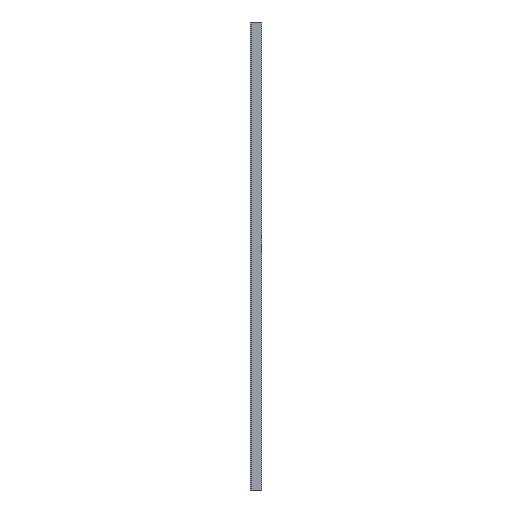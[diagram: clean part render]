
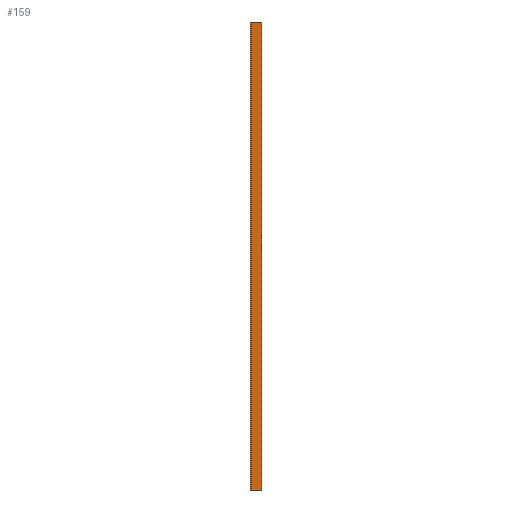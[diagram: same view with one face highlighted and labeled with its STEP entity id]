
A CAD part, left-side view. The second image highlights one B-rep face of the part: STEP entity #159.
In plain terms, the highlighted planar face has unit normal (-1, 0, 0).
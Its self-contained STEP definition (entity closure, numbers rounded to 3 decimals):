
#22 = ORIENTED_EDGE ( 'NONE', *, *, #540, .F. ) ;
#56 = FACE_OUTER_BOUND ( 'NONE', #443, .T. ) ;
#57 = ORIENTED_EDGE ( 'NONE', *, *, #177, .T. ) ;
#66 = DIRECTION ( 'NONE',  ( 0., 1., 0. ) ) ;
#76 = CARTESIAN_POINT ( 'NONE',  ( -605.5, -20., -754. ) ) ;
#100 = VECTOR ( 'NONE', #470, 1000. ) ;
#130 = CARTESIAN_POINT ( 'NONE',  ( -605.5, 0., -754. ) ) ;
#159 = ADVANCED_FACE ( 'NONE', ( #56 ), #831, .T. ) ;
#167 = VECTOR ( 'NONE', #66, 1000. ) ;
#177 = EDGE_CURVE ( 'NONE', #881, #329, #259, .T. ) ;
#244 = DIRECTION ( 'NONE',  ( 0., 1., 0. ) ) ;
#259 = LINE ( 'NONE', #684, #893 ) ;
#280 = VERTEX_POINT ( 'NONE', #878 ) ;
#306 = CARTESIAN_POINT ( 'NONE',  ( -605.5, 0., -754. ) ) ;
#317 = DIRECTION ( 'NONE',  ( -1., 0., 0. ) ) ;
#326 = VERTEX_POINT ( 'NONE', #130 ) ;
#329 = VERTEX_POINT ( 'NONE', #462 ) ;
#349 = CARTESIAN_POINT ( 'NONE',  ( -605.5, -20., 50. ) ) ;
#400 = DIRECTION ( 'NONE',  ( 0., 0., 1. ) ) ;
#443 = EDGE_LOOP ( 'NONE', ( #576, #22, #57, #762 ) ) ;
#462 = CARTESIAN_POINT ( 'NONE',  ( -605.5, -20., 50. ) ) ;
#470 = DIRECTION ( 'NONE',  ( 0., 0., 1. ) ) ;
#540 = EDGE_CURVE ( 'NONE', #881, #326, #688, .T. ) ;
#576 = ORIENTED_EDGE ( 'NONE', *, *, #664, .F. ) ;
#618 = CARTESIAN_POINT ( 'NONE',  ( -605.5, -20., -754. ) ) ;
#664 = EDGE_CURVE ( 'NONE', #326, #280, #909, .T. ) ;
#684 = CARTESIAN_POINT ( 'NONE',  ( -605.5, -20., -754. ) ) ;
#688 = LINE ( 'NONE', #76, #854 ) ;
#690 = LINE ( 'NONE', #349, #167 ) ;
#762 = ORIENTED_EDGE ( 'NONE', *, *, #972, .T. ) ;
#831 = PLANE ( 'NONE',  #875 ) ;
#854 = VECTOR ( 'NONE', #244, 1000. ) ;
#875 = AXIS2_PLACEMENT_3D ( 'NONE', #1095, #317, #400 ) ;
#878 = CARTESIAN_POINT ( 'NONE',  ( -605.5, 0., 50. ) ) ;
#881 = VERTEX_POINT ( 'NONE', #618 ) ;
#893 = VECTOR ( 'NONE', #942, 1000. ) ;
#909 = LINE ( 'NONE', #306, #100 ) ;
#942 = DIRECTION ( 'NONE',  ( 0., 0., 1. ) ) ;
#972 = EDGE_CURVE ( 'NONE', #329, #280, #690, .T. ) ;
#1095 = CARTESIAN_POINT ( 'NONE',  ( -605.5, -20., -754. ) ) ;
